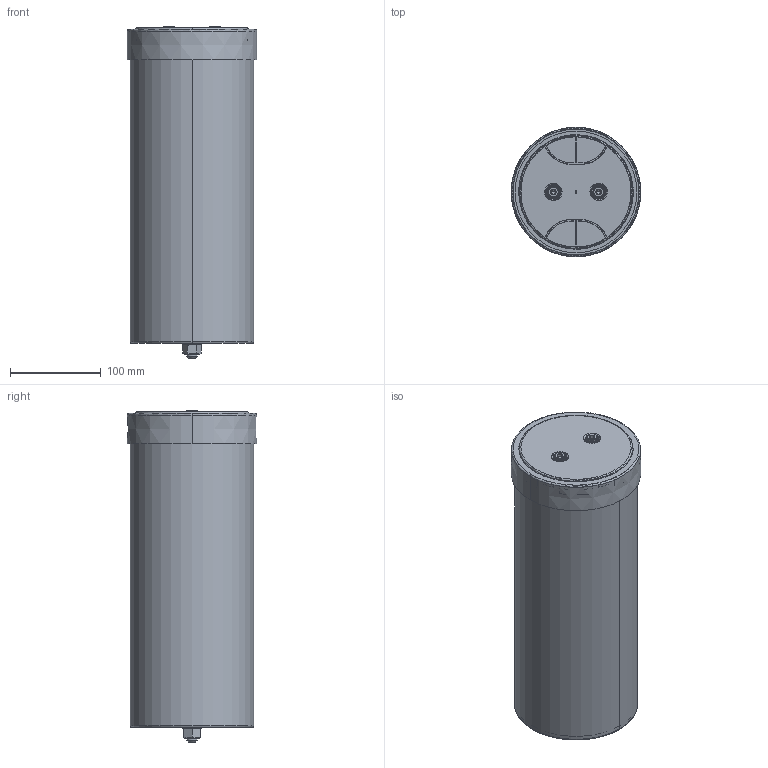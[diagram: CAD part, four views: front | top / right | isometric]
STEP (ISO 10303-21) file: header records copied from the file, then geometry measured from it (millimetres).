
FILE_DESCRIPTION (( 'STEP AP203' ), '1' );
FILE_NAME ('B25680Cx_136x348_350.STEP', '2021-09-30T08:28:58', ( '' ), ( '' ), 'SwSTEP 2.0', 'SolidWorks 2017', '' );
FILE_SCHEMA (( 'CONFIG_CONTROL_DESIGN' ));
Length unit declared in the file: millimetre
Products named in the file (1): B25680Cx_136x348_350
Bounding box: 143.08 x 143.08 x 366 mm (x, y, z)
Volume: 263159.9 mm3; surface area: 439151.5 mm2
Topology: 1 solids, 8 shells, 696 faces, 1792 edges, 1125 vertices
Faces by surface type: plane 219, cylinder 183, bspline 160, cone 102, torus 32
Entity records: 27764 total; most frequent: CARTESIAN_POINT 11680, ORIENTED_EDGE 3556, DIRECTION 3173, EDGE_CURVE 1778, AXIS2_PLACEMENT_3D 1302, VERTEX_POINT 1125, CIRCLE 765, EDGE_LOOP 755
